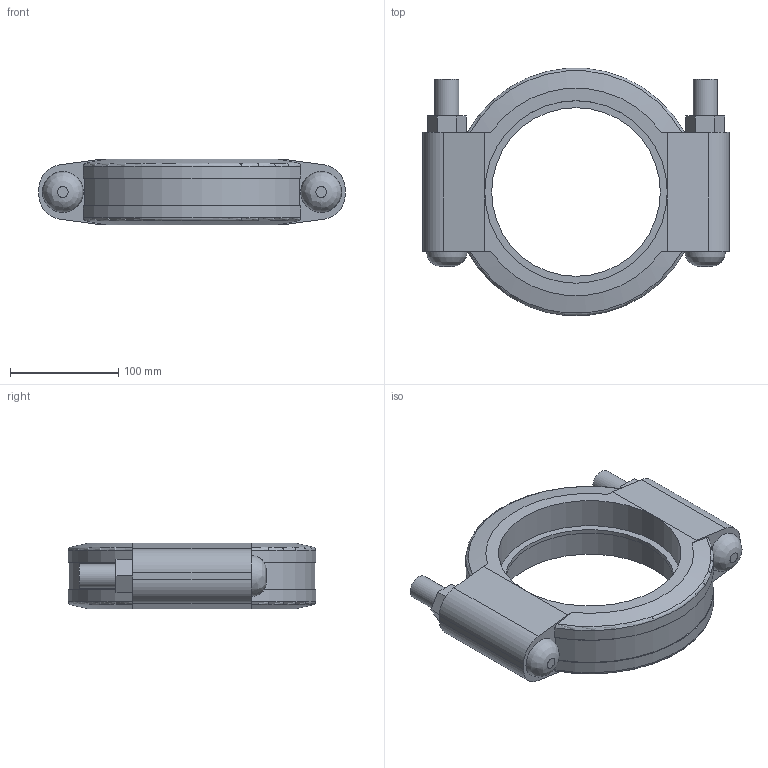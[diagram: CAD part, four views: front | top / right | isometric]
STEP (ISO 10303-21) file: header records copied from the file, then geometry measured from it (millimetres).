
FILE_DESCRIPTION(/* description */ ('VIC CPLG RGD IR STYLE HP-170 (ESG)'),/* implementation_level */ '2;1');
FILE_NAME(/* name */ 'C:\Files for Export\HP-170\STEP\Victaulic_IPS-EndSeal_Cplg Rgd_IR_Style HP-170 (ESG)\Victaulic_IPS-EndSeal_Cplg Rgd_IR_Style HP-170 (ESG)_6 (150).stp',/* time_stamp */ '2023-12-19T11:33:29+01:00',/* author */ ('CONSTRUCTION PIPING SERVICES'),/* organization */ ('Victaulic'),/* preprocessor_version */ 'ST-DEVELOPER v18.1',/* originating_system */ 'Autodesk Inventor 2020',/* authorisation */ '');
FILE_SCHEMA (('AUTOMOTIVE_DESIGN { 1 0 10303 214 3 1 1 }'));
Length unit declared in the file: inch
Products named in the file (1): HP-170-06.0
Bounding box: 282.45 x 227.83 x 60.45 mm (x, y, z)
Volume: 1414505.8 mm3; surface area: 175989.6 mm2
Topology: 1 solids, 3 shells, 77 faces, 203 edges, 134 vertices
Faces by surface type: plane 46, cylinder 21, torus 4, cone 4, bspline 2
Full cylindrical faces by diameter (mm): 22.225 x4, 155.575 x1, 168.275 x2
Entity records: 2639 total; most frequent: CARTESIAN_POINT 555, DIRECTION 407, ORIENTED_EDGE 406, EDGE_CURVE 203, AXIS2_PLACEMENT_3D 144, VERTEX_POINT 134, LINE 119, VECTOR 119
